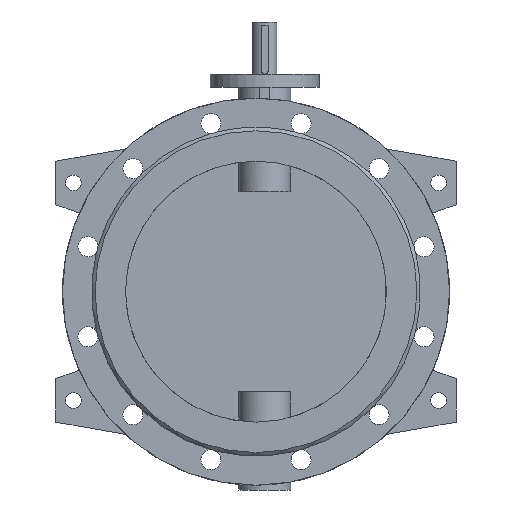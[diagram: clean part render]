
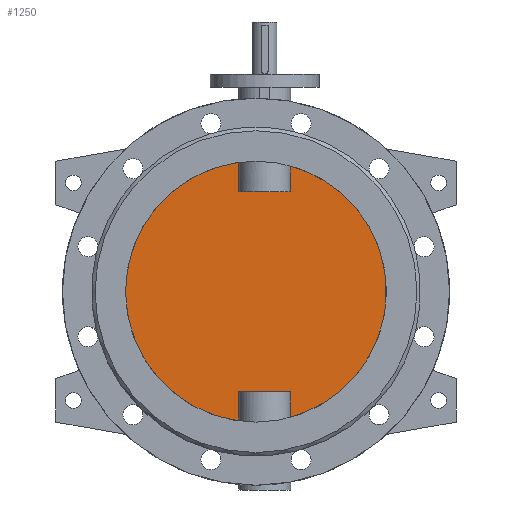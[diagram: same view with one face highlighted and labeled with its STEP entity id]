
A CAD part, front view. The second image highlights one B-rep face of the part: STEP entity #1250.
In plain terms, the highlighted planar face has unit normal (0, -1, 0).
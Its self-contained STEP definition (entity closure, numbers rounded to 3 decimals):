
#1250=ADVANCED_FACE('',(#2544),#2546,.F.);
#2544=FACE_BOUND('',#2545,.T.);
#2545=EDGE_LOOP('',(#3453,#3454,#3455,#3456,#3457,#3458,#3459,#3460));
#2546=PLANE('',#2547);
#2547=AXIS2_PLACEMENT_3D('',#2548,#2549,#2550);
#2548=CARTESIAN_POINT('',(0.,-5.,0.));
#2549=DIRECTION('',(0.,1.,0.));
#2550=DIRECTION('',(1.,0.,0.));
#3453=ORIENTED_EDGE('',*,*,#3918,.T.);
#3454=ORIENTED_EDGE('',*,*,#3924,.T.);
#3455=ORIENTED_EDGE('',*,*,#3925,.T.);
#3456=ORIENTED_EDGE('',*,*,#3926,.T.);
#3457=ORIENTED_EDGE('',*,*,#3920,.T.);
#3458=ORIENTED_EDGE('',*,*,#3927,.T.);
#3459=ORIENTED_EDGE('',*,*,#3928,.T.);
#3460=ORIENTED_EDGE('',*,*,#3929,.T.);
#3918=EDGE_CURVE('',#4637,#4638,#4639,.F.);
#3920=EDGE_CURVE('',#4642,#4640,#4643,.F.);
#3924=EDGE_CURVE('',#4638,#4649,#4650,.T.);
#3925=EDGE_CURVE('',#4649,#4651,#4652,.F.);
#3926=EDGE_CURVE('',#4651,#4642,#4653,.F.);
#3927=EDGE_CURVE('',#4640,#4654,#4655,.F.);
#3928=EDGE_CURVE('',#4654,#4656,#4657,.F.);
#3929=EDGE_CURVE('',#4656,#4637,#4658,.T.);
#4637=VERTEX_POINT('',#8060);
#4638=VERTEX_POINT('',#8061);
#4639=CIRCLE('',#8062,150.);
#4640=VERTEX_POINT('',#8066);
#4642=VERTEX_POINT('',#8172);
#4643=CIRCLE('',#8173,150.);
#4649=VERTEX_POINT('',#8304);
#4650=LINE('',#8305,#8306);
#4651=VERTEX_POINT('',#8308);
#4652=LINE('',#8309,#8310);
#4653=LINE('',#8312,#8313);
#4654=VERTEX_POINT('',#8315);
#4655=LINE('',#8316,#8317);
#4656=VERTEX_POINT('',#8319);
#4657=LINE('',#8320,#8321);
#4658=LINE('',#8323,#8324);
#8060=CARTESIAN_POINT('',(39.58,-5.,-144.684));
#8061=CARTESIAN_POINT('',(39.58,-5.,144.684));
#8062=AXIS2_PLACEMENT_3D('',#8063,#8064,#8065);
#8063=CARTESIAN_POINT('',(0.,-5.,0.));
#8064=DIRECTION('',(0.,1.,0.));
#8065=DIRECTION('',(0.264,0.,0.965));
#8066=CARTESIAN_POINT('',(-19.58,-5.,-148.717));
#8172=CARTESIAN_POINT('',(-19.58,-5.,148.717));
#8173=AXIS2_PLACEMENT_3D('',#8174,#8175,#8176);
#8174=CARTESIAN_POINT('',(0.,-5.,0.));
#8175=DIRECTION('',(0.,1.,0.));
#8176=DIRECTION('',(-0.131,0.,-0.991));
#8304=CARTESIAN_POINT('',(39.58,-5.,115.));
#8305=CARTESIAN_POINT('',(39.58,-5.,144.684));
#8306=VECTOR('',#8307,1.);
#8307=DIRECTION('',(0.,0.,-1.));
#8308=CARTESIAN_POINT('',(-19.58,-5.,115.));
#8309=CARTESIAN_POINT('',(-19.58,-5.,115.));
#8310=VECTOR('',#8311,1.);
#8311=DIRECTION('',(1.,0.,0.));
#8312=CARTESIAN_POINT('',(-19.58,-5.,148.717));
#8313=VECTOR('',#8314,1.);
#8314=DIRECTION('',(0.,0.,-1.));
#8315=CARTESIAN_POINT('',(-19.58,-5.,-115.));
#8316=CARTESIAN_POINT('',(-19.58,-5.,-115.));
#8317=VECTOR('',#8318,1.);
#8318=DIRECTION('',(0.,0.,-1.));
#8319=CARTESIAN_POINT('',(39.58,-5.,-115.));
#8320=CARTESIAN_POINT('',(39.58,-5.,-115.));
#8321=VECTOR('',#8322,1.);
#8322=DIRECTION('',(-1.,0.,0.));
#8323=CARTESIAN_POINT('',(39.58,-5.,-115.));
#8324=VECTOR('',#8325,1.);
#8325=DIRECTION('',(0.,0.,-1.));
